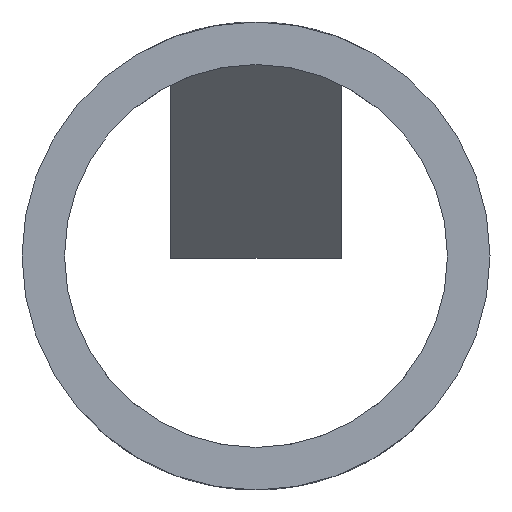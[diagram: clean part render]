
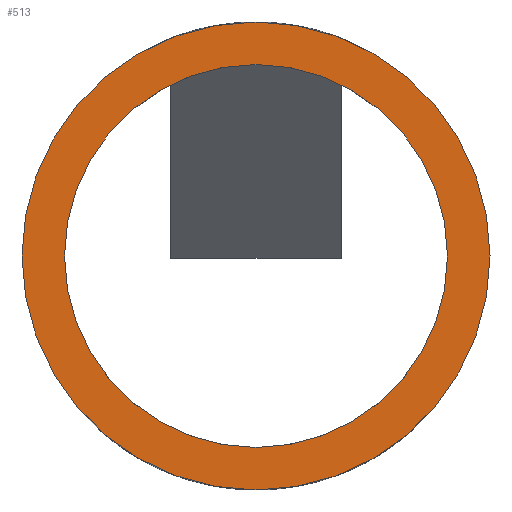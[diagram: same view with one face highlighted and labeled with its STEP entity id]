
A CAD part, front view. The second image highlights one B-rep face of the part: STEP entity #513.
In plain terms, the highlighted planar face has unit normal (0, -1, 0).
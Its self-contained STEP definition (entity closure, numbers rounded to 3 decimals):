
#15 = DIRECTION ( 'NONE',  ( -1., 0., 0. ) ) ;
#16 = DIRECTION ( 'NONE',  ( 0., -1., 0. ) ) ;
#39 = CIRCLE ( 'NONE', #238, 4.5 ) ;
#55 = CIRCLE ( 'NONE', #239, 5.5 ) ;
#75 = EDGE_LOOP ( 'NONE', ( #143, #144 ) ) ;
#85 = EDGE_LOOP ( 'NONE', ( #141, #142 ) ) ;
#141 = ORIENTED_EDGE ( 'NONE', *, *, #264, .T. ) ;
#142 = ORIENTED_EDGE ( 'NONE', *, *, #183, .T. ) ;
#143 = ORIENTED_EDGE ( 'NONE', *, *, #259, .F. ) ;
#144 = ORIENTED_EDGE ( 'NONE', *, *, #224, .F. ) ;
#164 = DIRECTION ( 'NONE',  ( 0., -1., 0. ) ) ;
#183 = EDGE_CURVE ( 'NONE', #684, #661, #55, .T. ) ;
#186 = AXIS2_PLACEMENT_3D ( 'NONE', #784, #789, #781 ) ;
#224 = EDGE_CURVE ( 'NONE', #697, #700, #39, .T. ) ;
#226 = AXIS2_PLACEMENT_3D ( 'NONE', #325, #16, #15 ) ;
#236 = AXIS2_PLACEMENT_3D ( 'NONE', #323, #164, #272 ) ;
#238 = AXIS2_PLACEMENT_3D ( 'NONE', #454, #449, #448 ) ;
#239 = AXIS2_PLACEMENT_3D ( 'NONE', #669, #668, #667 ) ;
#259 = EDGE_CURVE ( 'NONE', #700, #697, #547, .T. ) ;
#264 = EDGE_CURVE ( 'NONE', #661, #684, #537, .T. ) ;
#272 = DIRECTION ( 'NONE',  ( -1., 0., 0. ) ) ;
#323 = CARTESIAN_POINT ( 'NONE',  ( 0., 0., 0. ) ) ;
#325 = CARTESIAN_POINT ( 'NONE',  ( 0., 0., 0. ) ) ;
#448 = DIRECTION ( 'NONE',  ( -1., 0., 0. ) ) ;
#449 = DIRECTION ( 'NONE',  ( 0., -1., 0. ) ) ;
#454 = CARTESIAN_POINT ( 'NONE',  ( 0., 0., 0. ) ) ;
#513 = ADVANCED_FACE ( 'NONE', ( #837, #838 ), #801, .T. ) ;
#537 = CIRCLE ( 'NONE', #226, 5.5 ) ;
#547 = CIRCLE ( 'NONE', #236, 4.5 ) ;
#661 = VERTEX_POINT ( 'NONE', #721 ) ;
#667 = DIRECTION ( 'NONE',  ( -1., 0., 0. ) ) ;
#668 = DIRECTION ( 'NONE',  ( 0., -1., 0. ) ) ;
#669 = CARTESIAN_POINT ( 'NONE',  ( 0., 0., 0. ) ) ;
#684 = VERTEX_POINT ( 'NONE', #725 ) ;
#697 = VERTEX_POINT ( 'NONE', #723 ) ;
#700 = VERTEX_POINT ( 'NONE', #757 ) ;
#721 = CARTESIAN_POINT ( 'NONE',  ( 5.5, 0., 0. ) ) ;
#723 = CARTESIAN_POINT ( 'NONE',  ( -4.5, 0., 0. ) ) ;
#725 = CARTESIAN_POINT ( 'NONE',  ( -5.5, 0., 0. ) ) ;
#757 = CARTESIAN_POINT ( 'NONE',  ( 4.5, 0., 0. ) ) ;
#781 = DIRECTION ( 'NONE',  ( -1., 0., 0. ) ) ;
#784 = CARTESIAN_POINT ( 'NONE',  ( 0., 0., 0. ) ) ;
#789 = DIRECTION ( 'NONE',  ( 0., -1., 0. ) ) ;
#801 = PLANE ( 'NONE',  #186 ) ;
#837 = FACE_OUTER_BOUND ( 'NONE', #85, .T. ) ;
#838 = FACE_BOUND ( 'NONE', #75, .T. ) ;
